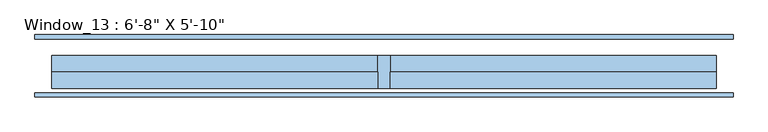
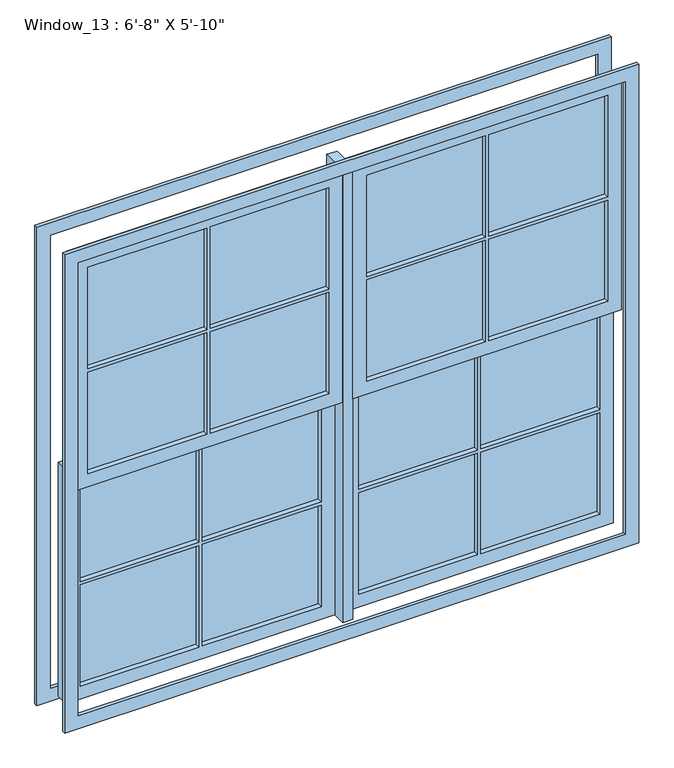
"""IFC4 building model written with IfcOpenShell, lengths in millimetres: window geometry."""

from ifc_helpers import new_model, si_unit, frame, origin, place, context, project, spatial, polyline, outline, extrude, source, transform, mapped, element, save


def window_a5bdc124(model_context):
    return source(origin(), model_context, "Body", "SweptSolid", [
        extrude(outline(polyline([(965.2, -38.1), (965.2, -51.3853592), (523.875, -51.3853592), (523.875, -38.1), (965.2, -38.1)])), frame((0.0, 0.0, 2141.5375), z_axis=(0.0, 0.0, 1.0), x_axis=(1.0, 0.0, 0.0)), (0.0, 0.0, 1.0), 398.4625),
        extrude(outline(polyline([(-523.875, -38.1), (-523.875, -51.3853592), (-965.2, -51.3853592), (-965.2, -38.1), (-523.875, -38.1)])), frame((0.0, 0.0, 2141.5375), z_axis=(0.0, 0.0, 1.0), x_axis=(1.0, 0.0, 0.0)), (0.0, 0.0, 1.0), 398.4625),
        extrude(outline(polyline([(-69.85, -38.1), (-69.85, -51.3853592), (-511.175, -51.3853592), (-511.175, -38.1), (-69.85, -38.1)])), frame((0.0, 0.0, 2141.5375), z_axis=(0.0, 0.0, 1.0), x_axis=(1.0, 0.0, 0.0)), (0.0, 0.0, 1.0), 398.4625),
        extrude(outline(polyline([(965.2, -38.1), (965.2, -51.3853592), (523.875, -51.3853592), (523.875, -38.1), (965.2, -38.1)])), frame((0.0, 0.0, 1730.375), z_axis=(0.0, 0.0, 1.0), x_axis=(1.0, 0.0, 0.0)), (0.0, 0.0, 1.0), 398.4625),
        extrude(outline(polyline([(511.175, -38.1), (511.175, -51.3853592), (69.85, -51.3853592), (69.85, -38.1), (511.175, -38.1)])), frame((0.0, 0.0, 1730.375), z_axis=(0.0, 0.0, 1.0), x_axis=(1.0, 0.0, 0.0)), (0.0, 0.0, 1.0), 398.4625),
        extrude(outline(polyline([(511.175, -38.1), (511.175, -51.3853592), (69.85, -51.3853592), (69.85, -38.1), (511.175, -38.1)])), frame((0.0, 0.0, 2141.5375), z_axis=(0.0, 0.0, 1.0), x_axis=(1.0, 0.0, 0.0)), (0.0, 0.0, 1.0), 398.4625),
        extrude(outline(polyline([(-523.875, -38.1), (-523.875, -51.3853592), (-965.2, -51.3853592), (-965.2, -38.1), (-523.875, -38.1)])), frame((0.0, 0.0, 1730.375), z_axis=(0.0, 0.0, 1.0), x_axis=(1.0, 0.0, 0.0)), (0.0, 0.0, 1.0), 398.4625),
        extrude(outline(polyline([(-69.85, -38.1), (-69.85, -51.3853592), (-511.175, -51.3853592), (-511.175, -38.1), (-69.85, -38.1)])), frame((0.0, 0.0, 1730.375), z_axis=(0.0, 0.0, 1.0), x_axis=(1.0, 0.0, 0.0)), (0.0, 0.0, 1.0), 398.4625),
        extrude(outline(polyline([(2590.8, 19.05), (1679.575, 19.05), (1679.575, 1016.0), (2590.8, 1016.0), (2590.8, 19.05)]), holes=[polyline([(2540.0, 523.875), (2540.0, 965.2), (2141.5375, 965.2), (2141.5375, 523.875), (2540.0, 523.875)]), polyline([(1730.375, 523.875), (2128.8375, 523.875), (2128.8375, 965.2), (1730.375, 965.2), (1730.375, 523.875)]), polyline([(2128.8375, 69.85), (2128.8375, 511.175), (1730.375, 511.175), (1730.375, 69.85), (2128.8375, 69.85)]), polyline([(2141.5375, 511.175), (2141.5375, 69.85), (2540.0, 69.85), (2540.0, 511.175), (2141.5375, 511.175)])]), frame((0.0, -69.85, 0.0), z_axis=(0.0, 1.0, 0.0), x_axis=(0.0, 0.0, 1.0)), (0.0, 0.0, 1.0), 50.8),
        extrude(outline(polyline([(2590.8, -19.05), (2590.8, -1016.0), (1679.575, -1016.0), (1679.575, -19.05), (2590.8, -19.05)]), holes=[polyline([(2141.5375, -511.175), (2540.0, -511.175), (2540.0, -69.85), (2141.5375, -69.85), (2141.5375, -511.175)]), polyline([(2540.0, -523.875), (2141.5375, -523.875), (2141.5375, -965.2), (2540.0, -965.2), (2540.0, -523.875)]), polyline([(1730.375, -523.875), (1730.375, -965.2), (2128.8375, -965.2), (2128.8375, -523.875), (1730.375, -523.875)]), polyline([(2128.8375, -69.85), (1730.375, -69.85), (1730.375, -511.175), (2128.8375, -511.175), (2128.8375, -69.85)])]), frame((0.0, -69.85, 0.0), z_axis=(0.0, 1.0, 0.0), x_axis=(0.0, 0.0, 1.0)), (0.0, 0.0, 1.0), 50.8),
        extrude(outline(polyline([(523.875, 0.0), (523.875, 12.7), (965.2, 12.7), (965.2, 0.0), (523.875, 0.0)])), frame((0.0, 0.0, 863.6), z_axis=(0.0, 0.0, 1.0), x_axis=(1.0, 0.0, 0.0)), (0.0, 0.0, 1.0), 398.4625),
        extrude(outline(polyline([(69.85, 0.0), (69.85, 12.7), (511.175, 12.7), (511.175, 0.0), (69.85, 0.0)])), frame((0.0, 0.0, 863.6), z_axis=(0.0, 0.0, 1.0), x_axis=(1.0, 0.0, 0.0)), (0.0, 0.0, 1.0), 398.4625),
        extrude(outline(polyline([(-965.2, 0.0), (-965.2, 12.7), (-523.875, 12.7), (-523.875, 0.0), (-965.2, 0.0)])), frame((0.0, 0.0, 863.6), z_axis=(0.0, 0.0, 1.0), x_axis=(1.0, 0.0, 0.0)), (0.0, 0.0, 1.0), 398.4625),
        extrude(outline(polyline([(523.875, 0.0), (523.875, 12.7), (965.2, 12.7), (965.2, 0.0), (523.875, 0.0)])), frame((0.0, 0.0, 1274.7625), z_axis=(0.0, 0.0, 1.0), x_axis=(1.0, 0.0, 0.0)), (0.0, 0.0, 1.0), 404.8125),
        extrude(outline(polyline([(69.85, 0.0), (69.85, 12.7), (511.175, 12.7), (511.175, 0.0), (69.85, 0.0)])), frame((0.0, 0.0, 1274.7625), z_axis=(0.0, 0.0, 1.0), x_axis=(1.0, 0.0, 0.0)), (0.0, 0.0, 1.0), 404.8125),
        extrude(outline(polyline([(-965.2, 0.0), (-965.2, 12.7), (-523.875, 12.7), (-523.875, 0.0), (-965.2, 0.0)])), frame((0.0, 0.0, 1274.7625), z_axis=(0.0, 0.0, 1.0), x_axis=(1.0, 0.0, 0.0)), (0.0, 0.0, 1.0), 404.8125),
        extrude(outline(polyline([(-511.175, 0.0), (-511.175, 12.7), (-69.85, 12.7), (-69.85, 0.0), (-511.175, 0.0)])), frame((0.0, 0.0, 863.6), z_axis=(0.0, 0.0, 1.0), x_axis=(1.0, 0.0, 0.0)), (0.0, 0.0, 1.0), 398.4625),
        extrude(outline(polyline([(-511.175, 0.0), (-511.175, 12.7), (-69.85, 12.7), (-69.85, 0.0), (-511.175, 0.0)])), frame((0.0, 0.0, 1274.7625), z_axis=(0.0, 0.0, 1.0), x_axis=(1.0, 0.0, 0.0)), (0.0, 0.0, 1.0), 404.8125),
        extrude(outline(polyline([(1730.375, 19.05), (812.8, 19.05), (812.8, 1016.0), (1730.375, 1016.0), (1730.375, 19.05)]), holes=[polyline([(863.6, 523.875), (1262.0625, 523.875), (1262.0625, 965.2), (863.6, 965.2), (863.6, 523.875)]), polyline([(1679.575, 523.875), (1679.575, 965.2), (1274.7625, 965.2), (1274.7625, 523.875), (1679.575, 523.875)]), polyline([(1262.0625, 69.85), (1262.0625, 511.175), (863.6, 511.175), (863.6, 69.85), (1262.0625, 69.85)]), polyline([(1274.7625, 511.175), (1274.7625, 69.85), (1679.575, 69.85), (1679.575, 511.175), (1274.7625, 511.175)])]), frame((0.0, -19.05, 0.0), z_axis=(0.0, 1.0, 0.0), x_axis=(0.0, 0.0, 1.0)), (0.0, 0.0, 1.0), 50.8),
        extrude(outline(polyline([(812.8, -1016.0), (812.8, -19.05), (1730.375, -19.05), (1730.375, -1016.0), (812.8, -1016.0)]), holes=[polyline([(863.6, -523.875), (863.6, -965.2), (1262.0625, -965.2), (1262.0625, -523.875), (863.6, -523.875)]), polyline([(1262.0625, -69.85), (863.6, -69.85), (863.6, -511.175), (1262.0625, -511.175), (1262.0625, -69.85)]), polyline([(1679.575, -523.875), (1274.7625, -523.875), (1274.7625, -965.2), (1679.575, -965.2), (1679.575, -523.875)]), polyline([(1274.7625, -511.175), (1679.575, -511.175), (1679.575, -69.85), (1274.7625, -69.85), (1274.7625, -511.175)])]), frame((0.0, -19.05, 0.0), z_axis=(0.0, 1.0, 0.0), x_axis=(0.0, 0.0, 1.0)), (0.0, 0.0, 1.0), 50.8),
        extrude(outline(polyline([(762.0, 1066.8), (2641.6, 1066.8), (2641.6, -1066.8), (762.0, -1066.8), (762.0, 1066.8)]), holes=[polyline([(812.8, 1016.0), (812.8, -1016.0), (2590.8, -1016.0), (2590.8, 1016.0), (812.8, 1016.0)])]), frame((0.0, 82.55, 0.0), z_axis=(0.0, 1.0, 0.0), x_axis=(0.0, 0.0, 1.0)), (0.0, 0.0, 1.0), 12.7),
        extrude(outline(polyline([(762.0, 1066.8), (2641.6, 1066.8), (2641.6, -1066.8), (762.0, -1066.8), (762.0, 1066.8)]), holes=[polyline([(812.8, 1016.0), (812.8, -1016.0), (2590.8, -1016.0), (2590.8, 1016.0), (812.8, 1016.0)])]), frame((0.0, -95.25, 0.0), z_axis=(0.0, 1.0, 0.0), x_axis=(0.0, 0.0, 1.0)), (0.0, 0.0, 1.0), 12.7),
        extrude(outline(polyline([(-19.05, -69.85), (-19.05, 31.75), (19.05, 31.75), (19.05, -69.85), (-19.05, -69.85)])), frame((0.0, 0.0, 812.8), z_axis=(0.0, 0.0, 1.0), x_axis=(1.0, 0.0, 0.0)), (0.0, 0.0, 1.0), 1778.0),
    ])


if __name__ == "__main__":
    model = new_model("IFC4")
    model_context = context("Model", 3, world=origin())
    ifc_project = project(units=[si_unit("LENGTHUNIT", "METRE", prefix="MILLI")], contexts=[model_context])
    site = spatial("IfcSite", under=ifc_project)
    building = spatial("IfcBuilding", under=site)
    placement = place(None, origin())
    window_shape = window_a5bdc124(model_context)
    element("IfcWindow", 1, ObjectType="Window_13 : 6'-8\" X 5'-10\"", at=placement, inside=building, context=model_context, shape_type="MappedRepresentation", body=[
        mapped(window_shape, transform((0.0, 0.0, 0.0), x_axis=(1.0, 0.0, 0.0), y_axis=(0.0, 1.0, 0.0), z_axis=(0.0, 0.0, 1.0))),
    ])
    save(model, "model.ifc")
